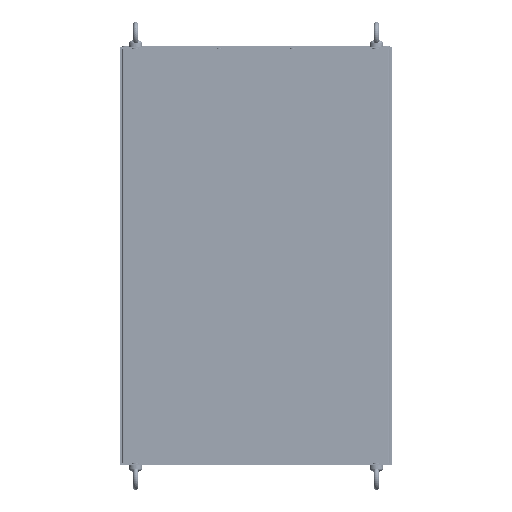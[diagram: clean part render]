
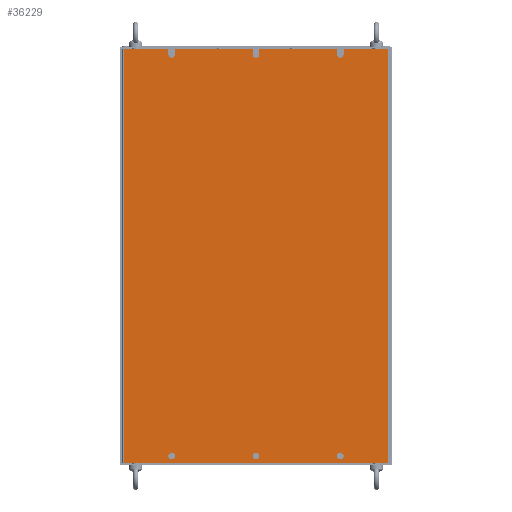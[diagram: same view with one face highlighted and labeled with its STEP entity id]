
A CAD part, front view. The second image highlights one B-rep face of the part: STEP entity #36229.
In plain terms, the highlighted planar face has unit normal (0, -1, 0).
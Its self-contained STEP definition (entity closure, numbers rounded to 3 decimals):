
#34471=DIRECTION('',(0.,0.,-1.));
#34472=VECTOR('',#34471,8.);
#34473=CARTESIAN_POINT('',(121.,-120.,383.));
#34474=LINE('',#34473,#34472);
#34478=CARTESIAN_POINT('',(126.,-120.,375.));
#34479=DIRECTION('',(0.,-1.,0.));
#34480=DIRECTION('',(-1.,0.,0.));
#34481=AXIS2_PLACEMENT_3D('',#34478,#34479,#34480);
#34486=DIRECTION('',(0.,0.,-1.));
#34487=VECTOR('',#34486,8.);
#34488=CARTESIAN_POINT('',(131.,-120.,383.));
#34489=LINE('',#34488,#34487);
#34493=DIRECTION('',(-1.,0.,0.));
#34494=VECTOR('',#34493,66.8);
#34495=CARTESIAN_POINT('',(197.8,-120.,383.));
#34496=LINE('',#34495,#34494);
#34500=DIRECTION('',(1.,0.,0.));
#34501=VECTOR('',#34500,395.6);
#34502=CARTESIAN_POINT('',(-197.8,-120.,-236.));
#34503=LINE('',#34502,#34501);
#34507=DIRECTION('',(-1.,0.,0.));
#34508=VECTOR('',#34507,66.8);
#34509=CARTESIAN_POINT('',(-131.,-120.,383.));
#34510=LINE('',#34509,#34508);
#34514=DIRECTION('',(0.,0.,-1.));
#34515=VECTOR('',#34514,8.);
#34516=CARTESIAN_POINT('',(-131.,-120.,383.));
#34517=LINE('',#34516,#34515);
#34521=CARTESIAN_POINT('',(-126.,-120.,375.));
#34522=DIRECTION('',(0.,-1.,0.));
#34523=DIRECTION('',(-1.,0.,0.));
#34524=AXIS2_PLACEMENT_3D('',#34521,#34522,#34523);
#34529=DIRECTION('',(0.,0.,-1.));
#34530=VECTOR('',#34529,8.);
#34531=CARTESIAN_POINT('',(-121.,-120.,383.));
#34532=LINE('',#34531,#34530);
#34536=DIRECTION('',(-1.,0.,0.));
#34537=VECTOR('',#34536,116.);
#34538=CARTESIAN_POINT('',(-5.,-120.,383.));
#34539=LINE('',#34538,#34537);
#34543=DIRECTION('',(0.,0.,-1.));
#34544=VECTOR('',#34543,8.);
#34545=CARTESIAN_POINT('',(-5.,-120.,383.));
#34546=LINE('',#34545,#34544);
#34550=CARTESIAN_POINT('',(0.,-120.,375.));
#34551=DIRECTION('',(0.,-1.,0.));
#34552=DIRECTION('',(-1.,0.,0.));
#34553=AXIS2_PLACEMENT_3D('',#34550,#34551,#34552);
#34558=DIRECTION('',(0.,0.,-1.));
#34559=VECTOR('',#34558,8.);
#34560=CARTESIAN_POINT('',(5.,-120.,383.));
#34561=LINE('',#34560,#34559);
#34565=DIRECTION('',(-1.,0.,0.));
#34566=VECTOR('',#34565,116.);
#34567=CARTESIAN_POINT('',(121.,-120.,383.));
#34568=LINE('',#34567,#34566);
#34572=CARTESIAN_POINT('',(-126.,-120.,-225.8));
#34573=DIRECTION('',(0.,-1.,0.));
#34574=DIRECTION('',(1.,0.,0.));
#34575=AXIS2_PLACEMENT_3D('',#34572,#34573,#34574);
#34580=CARTESIAN_POINT('',(-126.,-120.,-225.8));
#34581=DIRECTION('',(0.,-1.,0.));
#34582=DIRECTION('',(-1.,0.,0.));
#34583=AXIS2_PLACEMENT_3D('',#34580,#34581,#34582);
#34588=CARTESIAN_POINT('',(0.,-120.,-225.8));
#34589=DIRECTION('',(0.,-1.,0.));
#34590=DIRECTION('',(1.,0.,0.));
#34591=AXIS2_PLACEMENT_3D('',#34588,#34589,#34590);
#34596=CARTESIAN_POINT('',(0.,-120.,-225.8));
#34597=DIRECTION('',(0.,-1.,0.));
#34598=DIRECTION('',(-1.,0.,0.));
#34599=AXIS2_PLACEMENT_3D('',#34596,#34597,#34598);
#34604=CARTESIAN_POINT('',(126.,-120.,-225.8));
#34605=DIRECTION('',(0.,-1.,0.));
#34606=DIRECTION('',(1.,0.,0.));
#34607=AXIS2_PLACEMENT_3D('',#34604,#34605,#34606);
#34612=CARTESIAN_POINT('',(126.,-120.,-225.8));
#34613=DIRECTION('',(0.,-1.,0.));
#34614=DIRECTION('',(-1.,0.,0.));
#34615=AXIS2_PLACEMENT_3D('',#34612,#34613,#34614);
#34712=DIRECTION('',(0.,0.,-1.));
#34713=VECTOR('',#34712,619.);
#34714=CARTESIAN_POINT('',(-197.8,-120.,383.));
#34715=LINE('',#34714,#34713);
#35109=DIRECTION('',(0.,0.,1.));
#35110=VECTOR('',#35109,619.);
#35111=CARTESIAN_POINT('',(197.8,-120.,-236.));
#35112=LINE('',#35111,#35110);
#35830=CARTESIAN_POINT('',(197.8,-120.,-236.));
#35831=VERTEX_POINT('',#35830);
#35832=CARTESIAN_POINT('',(197.8,-120.,383.));
#35833=VERTEX_POINT('',#35832);
#35850=CARTESIAN_POINT('',(-197.8,-120.,383.));
#35851=VERTEX_POINT('',#35850);
#35852=CARTESIAN_POINT('',(-197.8,-120.,-236.));
#35853=VERTEX_POINT('',#35852);
#35956=CARTESIAN_POINT('',(131.,-120.,-225.8));
#35957=CARTESIAN_POINT('',(121.,-120.,-225.8));
#35958=VERTEX_POINT('',#35956);
#35959=VERTEX_POINT('',#35957);
#35960=CARTESIAN_POINT('',(5.,-120.,-225.8));
#35961=CARTESIAN_POINT('',(-5.,-120.,-225.8));
#35962=VERTEX_POINT('',#35960);
#35963=VERTEX_POINT('',#35961);
#35964=CARTESIAN_POINT('',(-121.,-120.,-225.8));
#35965=CARTESIAN_POINT('',(-131.,-120.,-225.8));
#35966=VERTEX_POINT('',#35964);
#35967=VERTEX_POINT('',#35965);
#35968=CARTESIAN_POINT('',(121.,-120.,383.));
#35969=CARTESIAN_POINT('',(121.,-120.,375.));
#35970=VERTEX_POINT('',#35968);
#35971=VERTEX_POINT('',#35969);
#35972=CARTESIAN_POINT('',(131.,-120.,383.));
#35973=CARTESIAN_POINT('',(131.,-120.,375.));
#35974=VERTEX_POINT('',#35972);
#35975=VERTEX_POINT('',#35973);
#35976=CARTESIAN_POINT('',(-5.,-120.,383.));
#35977=CARTESIAN_POINT('',(-5.,-120.,375.));
#35978=VERTEX_POINT('',#35976);
#35979=VERTEX_POINT('',#35977);
#35980=CARTESIAN_POINT('',(5.,-120.,383.));
#35981=CARTESIAN_POINT('',(5.,-120.,375.));
#35982=VERTEX_POINT('',#35980);
#35983=VERTEX_POINT('',#35981);
#35984=CARTESIAN_POINT('',(-131.,-120.,383.));
#35985=CARTESIAN_POINT('',(-131.,-120.,375.));
#35986=VERTEX_POINT('',#35984);
#35987=VERTEX_POINT('',#35985);
#35988=CARTESIAN_POINT('',(-121.,-120.,383.));
#35989=CARTESIAN_POINT('',(-121.,-120.,375.));
#35990=VERTEX_POINT('',#35988);
#35991=VERTEX_POINT('',#35989);
#36174=CARTESIAN_POINT('',(0.,-120.,0.));
#36175=DIRECTION('',(0.,-1.,0.));
#36176=DIRECTION('',(0.,0.,-1.));
#36177=AXIS2_PLACEMENT_3D('',#36174,#36175,#36176);
#36178=PLANE('',#36177);
#36180=ORIENTED_EDGE('',*,*,#36179,.T.);
#36182=ORIENTED_EDGE('',*,*,#36181,.T.);
#36184=ORIENTED_EDGE('',*,*,#36183,.F.);
#36186=ORIENTED_EDGE('',*,*,#36185,.F.);
#36188=ORIENTED_EDGE('',*,*,#36187,.F.);
#36190=ORIENTED_EDGE('',*,*,#36189,.F.);
#36192=ORIENTED_EDGE('',*,*,#36191,.F.);
#36194=ORIENTED_EDGE('',*,*,#36193,.F.);
#36196=ORIENTED_EDGE('',*,*,#36195,.T.);
#36198=ORIENTED_EDGE('',*,*,#36197,.T.);
#36200=ORIENTED_EDGE('',*,*,#36199,.F.);
#36202=ORIENTED_EDGE('',*,*,#36201,.F.);
#36204=ORIENTED_EDGE('',*,*,#36203,.T.);
#36206=ORIENTED_EDGE('',*,*,#36205,.T.);
#36208=ORIENTED_EDGE('',*,*,#36207,.F.);
#36210=ORIENTED_EDGE('',*,*,#36209,.F.);
#36211=EDGE_LOOP('',(#36180,#36182,#36184,#36186,#36188,#36190,#36192,#36194,
#36196,#36198,#36200,#36202,#36204,#36206,#36208,#36210));
#36212=FACE_OUTER_BOUND('',#36211,.F.);
#36214=ORIENTED_EDGE('',*,*,#36213,.T.);
#36216=ORIENTED_EDGE('',*,*,#36215,.T.);
#36217=EDGE_LOOP('',(#36214,#36216));
#36218=FACE_BOUND('',#36217,.F.);
#36220=ORIENTED_EDGE('',*,*,#36219,.T.);
#36222=ORIENTED_EDGE('',*,*,#36221,.T.);
#36223=EDGE_LOOP('',(#36220,#36222));
#36224=FACE_BOUND('',#36223,.F.);
#36225=ORIENTED_EDGE('',*,*,#36154,.T.);
#36226=ORIENTED_EDGE('',*,*,#36168,.T.);
#36227=EDGE_LOOP('',(#36225,#36226));
#36228=FACE_BOUND('',#36227,.F.);
#36229=ADVANCED_FACE('',(#36212,#36218,#36224,#36228),#36178,.T.);
#34482=CIRCLE('',#34481,5.);
#34525=CIRCLE('',#34524,5.);
#34554=CIRCLE('',#34553,5.);
#34576=CIRCLE('',#34575,5.);
#34584=CIRCLE('',#34583,5.);
#34592=CIRCLE('',#34591,5.);
#34600=CIRCLE('',#34599,5.);
#34608=CIRCLE('',#34607,5.);
#34616=CIRCLE('',#34615,5.);
#36154=EDGE_CURVE('',#35958,#35959,#34608,.T.);
#36168=EDGE_CURVE('',#35959,#35958,#34616,.T.);
#36179=EDGE_CURVE('',#35970,#35971,#34474,.T.);
#36181=EDGE_CURVE('',#35971,#35975,#34482,.T.);
#36183=EDGE_CURVE('',#35974,#35975,#34489,.T.);
#36185=EDGE_CURVE('',#35833,#35974,#34496,.T.);
#36187=EDGE_CURVE('',#35831,#35833,#35112,.T.);
#36189=EDGE_CURVE('',#35853,#35831,#34503,.T.);
#36191=EDGE_CURVE('',#35851,#35853,#34715,.T.);
#36193=EDGE_CURVE('',#35986,#35851,#34510,.T.);
#36195=EDGE_CURVE('',#35986,#35987,#34517,.T.);
#36197=EDGE_CURVE('',#35987,#35991,#34525,.T.);
#36199=EDGE_CURVE('',#35990,#35991,#34532,.T.);
#36201=EDGE_CURVE('',#35978,#35990,#34539,.T.);
#36203=EDGE_CURVE('',#35978,#35979,#34546,.T.);
#36205=EDGE_CURVE('',#35979,#35983,#34554,.T.);
#36207=EDGE_CURVE('',#35982,#35983,#34561,.T.);
#36209=EDGE_CURVE('',#35970,#35982,#34568,.T.);
#36213=EDGE_CURVE('',#35966,#35967,#34576,.T.);
#36215=EDGE_CURVE('',#35967,#35966,#34584,.T.);
#36219=EDGE_CURVE('',#35962,#35963,#34592,.T.);
#36221=EDGE_CURVE('',#35963,#35962,#34600,.T.);
